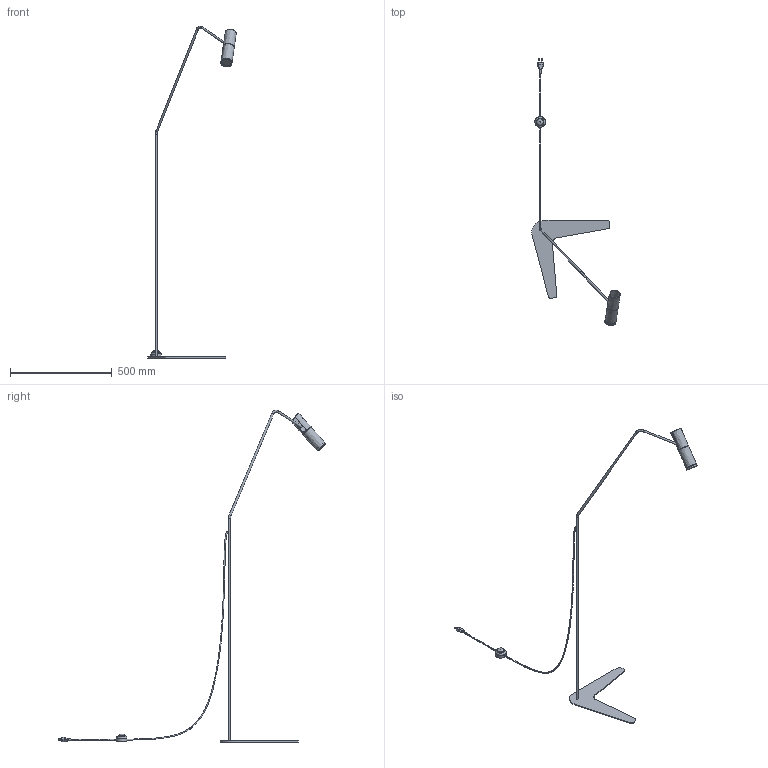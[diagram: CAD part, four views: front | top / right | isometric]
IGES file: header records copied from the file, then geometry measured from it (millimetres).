
Start section: SolidWorks IGES file using NURBS representation for surfaces
Global section: file name: Z:\Modele 3D_WWW\_KOLEKCJE WWW\EYE-SUPER\EYE-SUPER-6493-6500-6506\EYE-SUPER-6493-6500-6506.IGS; native system: SolidWorks 2021; preprocessor: SolidWorks 2021; author: gabriela.tworek; date: 220323.134558; units: millimetre
Bounding box: 434.38 x 1314.17 x 1629.2 mm (x, y, z)
Surface area: 268055.8 mm2 (no closed solid volume)
Topology: 0 solids, 0 shells, 70 faces, 331 edges, 312 vertices
Faces by surface type: bspline 70
